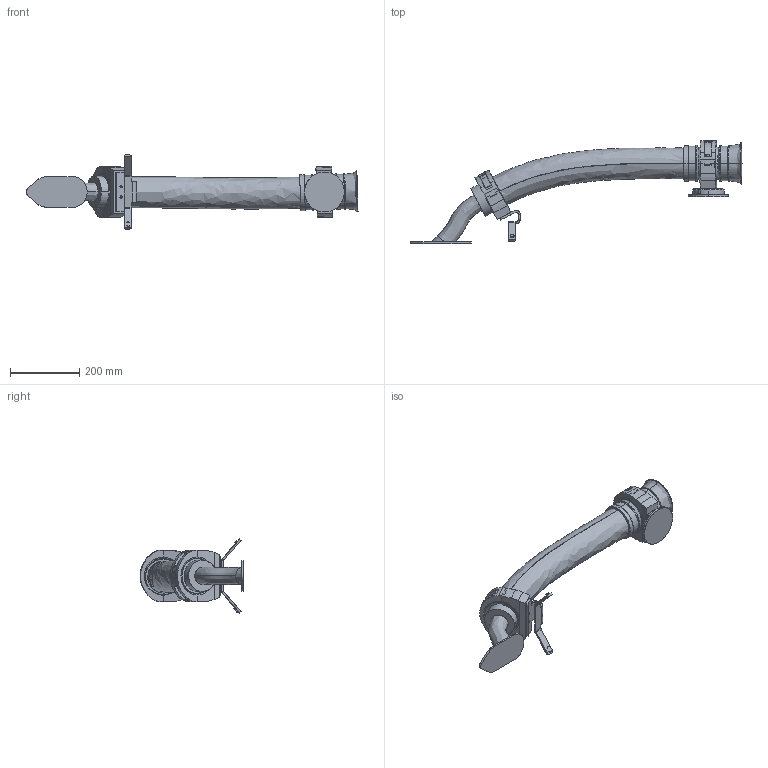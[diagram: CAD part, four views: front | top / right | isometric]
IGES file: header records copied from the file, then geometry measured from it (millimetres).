
Start section: SolidWorks IGES file using analytic representation for surfaces
Global section: file name: C:\Users\SEJAOLS6\OneDrive - ABB\Documents\SAP\7710\7710_Lightweight_models\IRB7710-LID-SW_400kg-285_OC_01_SW_J\IRB7710-LID-SW_400kg-285_OC_01_IGES_J\IRB7710-LID_All-285_OC_01_LINK04_CABLE.igs; native system: SolidWorks 2024; preprocessor: SolidWorks 2024; author: SEJAOLS6; date: 260127.071718; units: millimetre
Bounding box: 956.81 x 298.27 x 213.34 mm (x, y, z)
Surface area: 427474.7 mm2 (no closed solid volume)
Topology: 0 solids, 0 shells, 391 faces, 6965 edges, 6965 vertices
Faces by surface type: bspline 219, revolution 172
